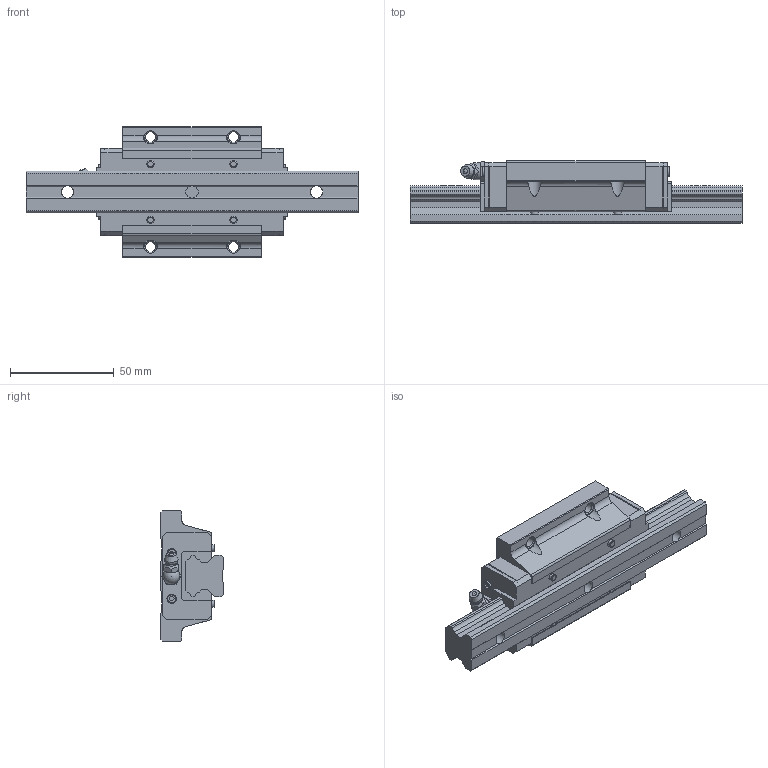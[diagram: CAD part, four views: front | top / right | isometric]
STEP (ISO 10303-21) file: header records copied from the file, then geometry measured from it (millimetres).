
FILE_DESCRIPTION(/* description */ ('STEP AP203'),/* implementation_level */ '2;1');
FILE_NAME(/* name */ 'HSR20M1LA1SS-160L_G20_0_B-M6F_34_0_0_0_1',/* time_stamp */ '2024-05-23T06:12:04+02:00',/* author */ ('License CC BY-ND 4.0'),/* organization */ ('CADENAS'),/* preprocessor_version */ 'ST-DEVELOPER v19.3',/* originating_system */ 'PARTsolutions',/* authorisation */ ' ');
FILE_SCHEMA (('CONFIG_CONTROL_DESIGN'));
Length unit declared in the file: millimetre
Products named in the file (4): HSR20M1LA1SS-160L_G20_0_B-M6F_34_0_0_0_1; HSR20M1LA116020 Rail; HSR20M1LASSB-M6F1 Slider; hsr_ftht_B-M6F_grease_nipple_joint
Assembly tree (3 placements, depth 2):
  HSR20M1LA1SS-160L_G20_0_B-M6F_34_0_0_0_1
    HSR20M1LA116020 Rail
    HSR20M1LASSB-M6F1 Slider
    hsr_ftht_B-M6F_grease_nipple_joint
Bounding box: 160 x 30 x 63 mm (x, y, z)
Volume: 135164.3 mm3; surface area: 34718.6 mm2
Topology: 3 solids, 3 shells, 268 faces, 707 edges, 458 vertices
Faces by surface type: plane 192, cylinder 42, cone 21, torus 10, sphere 3
Full cylindrical faces by diameter (mm): 3.43 x4, 4.5 x4, 4.917 x6, 6 x4, 8 x1, 9.5 x3
Entity records: 8071 total; most frequent: CARTESIAN_POINT 1505, ORIENTED_EDGE 1298, DIRECTION 1298, EDGE_CURVE 649, LINE 480, VECTOR 480, VERTEX_POINT 452, AXIS2_PLACEMENT_3D 409
